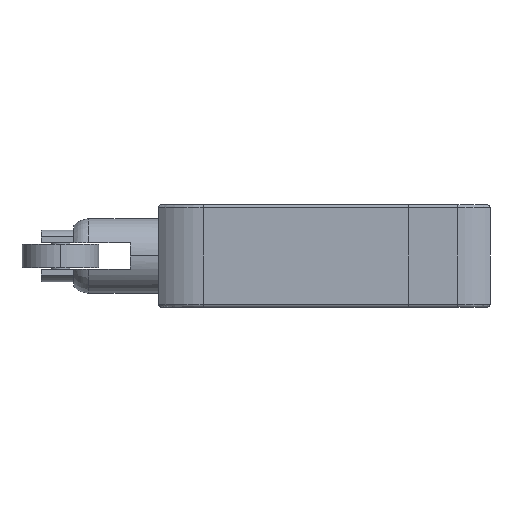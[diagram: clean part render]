
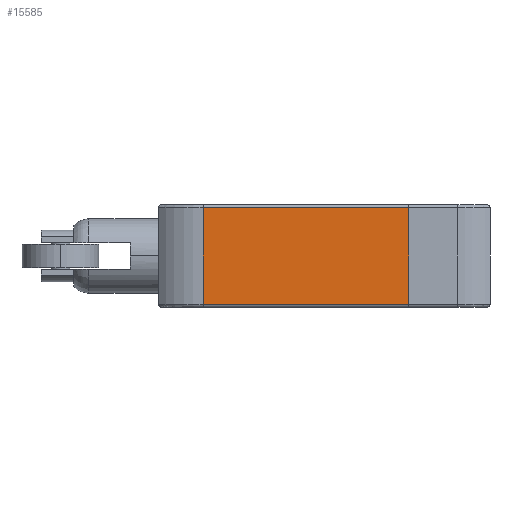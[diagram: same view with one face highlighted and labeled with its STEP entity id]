
A CAD part, left-side view. The second image highlights one B-rep face of the part: STEP entity #15585.
In plain terms, the highlighted planar face has unit normal (-1, 0, 0).
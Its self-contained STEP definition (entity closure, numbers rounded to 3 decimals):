
#31 = CARTESIAN_POINT ( 'NONE',  ( -15., 0., 7.5 ) ) ;
#350 = CARTESIAN_POINT ( 'NONE',  ( -15., 0., -7.5 ) ) ;
#965 = CARTESIAN_POINT ( 'NONE',  ( -15., 0., 8. ) ) ;
#1138 = DIRECTION ( 'NONE',  ( 0., 0., -1. ) ) ;
#1352 = CARTESIAN_POINT ( 'NONE',  ( -15., 32., 8. ) ) ;
#2692 = DIRECTION ( 'NONE',  ( 0., 1., 0. ) ) ;
#3223 = EDGE_CURVE ( 'NONE', #10222, #14126, #7107, .T. ) ;
#3859 = CARTESIAN_POINT ( 'NONE',  ( -15., 0., 8. ) ) ;
#4247 = CARTESIAN_POINT ( 'NONE',  ( -15., 32., 7.5 ) ) ;
#5138 = VECTOR ( 'NONE', #7211, 1000. ) ;
#6033 = ORIENTED_EDGE ( 'NONE', *, *, #10768, .T. ) ;
#6853 = CARTESIAN_POINT ( 'NONE',  ( -15., 32., -7.5 ) ) ;
#7107 = LINE ( 'NONE', #3859, #5138 ) ;
#7164 = DIRECTION ( 'NONE',  ( 1., 0., 0. ) ) ;
#7211 = DIRECTION ( 'NONE',  ( 0., 0., -1. ) ) ;
#7341 = LINE ( 'NONE', #1352, #10955 ) ;
#8165 = AXIS2_PLACEMENT_3D ( 'NONE', #965, #7164, #2692 ) ;
#8815 = PLANE ( 'NONE',  #8165 ) ;
#8937 = CARTESIAN_POINT ( 'NONE',  ( -15., 32., 7.5 ) ) ;
#9516 = ORIENTED_EDGE ( 'NONE', *, *, #11056, .T. ) ;
#10222 = VERTEX_POINT ( 'NONE', #31 ) ;
#10768 = EDGE_CURVE ( 'NONE', #10222, #17833, #13510, .T. ) ;
#10955 = VECTOR ( 'NONE', #1138, 1000. ) ;
#10959 = EDGE_LOOP ( 'NONE', ( #13122, #9516, #19822, #6033 ) ) ;
#11056 = EDGE_CURVE ( 'NONE', #14632, #14126, #12691, .T. ) ;
#11563 = EDGE_CURVE ( 'NONE', #17833, #14632, #7341, .T. ) ;
#12073 = FACE_OUTER_BOUND ( 'NONE', #10959, .T. ) ;
#12691 = LINE ( 'NONE', #350, #13277 ) ;
#13122 = ORIENTED_EDGE ( 'NONE', *, *, #11563, .T. ) ;
#13277 = VECTOR ( 'NONE', #19111, 1000. ) ;
#13510 = LINE ( 'NONE', #4247, #14900 ) ;
#13936 = CARTESIAN_POINT ( 'NONE',  ( -15., 0., -7.5 ) ) ;
#14126 = VERTEX_POINT ( 'NONE', #13936 ) ;
#14632 = VERTEX_POINT ( 'NONE', #6853 ) ;
#14747 = DIRECTION ( 'NONE',  ( 0., 1., 0. ) ) ;
#14900 = VECTOR ( 'NONE', #14747, 1000. ) ;
#15585 = ADVANCED_FACE ( 'NONE', ( #12073 ), #8815, .F. ) ;
#17833 = VERTEX_POINT ( 'NONE', #8937 ) ;
#19111 = DIRECTION ( 'NONE',  ( 0., -1., 0. ) ) ;
#19822 = ORIENTED_EDGE ( 'NONE', *, *, #3223, .F. ) ;
